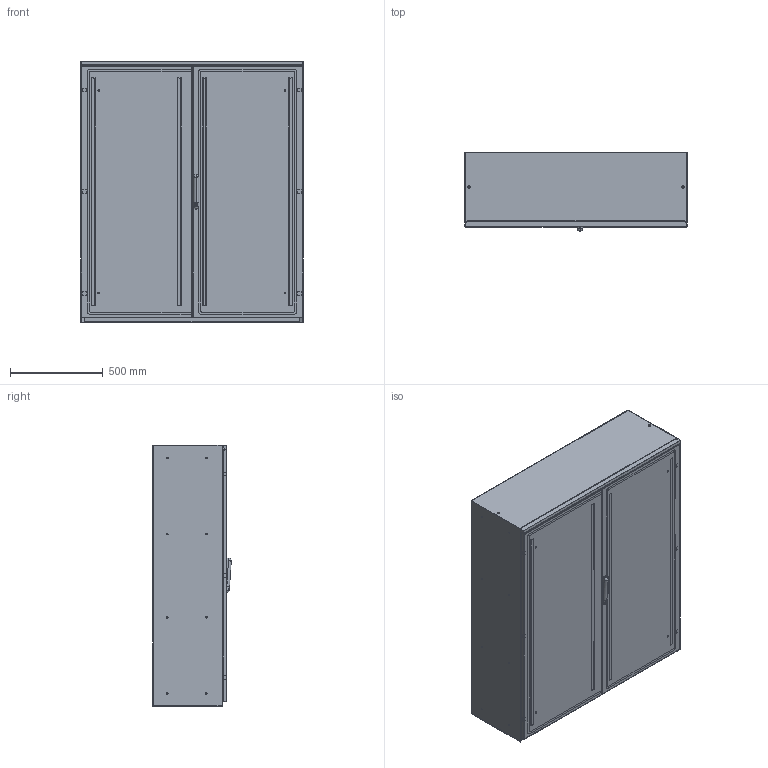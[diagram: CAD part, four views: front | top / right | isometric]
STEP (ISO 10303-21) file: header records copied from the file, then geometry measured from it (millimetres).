
FILE_DESCRIPTION (( 'STEP AP203' ), '1' );
FILE_NAME ('ECOMP121440.STEP', '2023-09-25T14:13:04', ( '' ), ( '' ), 'SwSTEP 2.0', 'SolidWorks 2022', '' );
FILE_SCHEMA (( 'CONFIG_CONTROL_DESIGN' ));
Length unit declared in the file: millimetre
Products named in the file (11): AR_ECOMP_maniglia; AR_ECOMP_struttura_1200x1400x0400; AR_ECOMP_tegolino_0600x0100; AR_ECOMP_assieme_maniglia; AR_ECOMP_Porta_IB_2.0_1200x1400_ANT; AR_ECOMP_piastra_interna_1200x1400; AR_ECOMP_tegolino_0600x0050; AR_ECOMP_Porta_CB_2.0_1200x1400_ANT_DX; ECOMP121440; AR_ECOMP_inserto_maniglia_Doppia_aletta; AR_ECOMP_montaggio_porta_IB_2.0_1200x1400_ANT_DX
Assembly tree (14 placements, depth 4):
  ECOMP121440
    AR_ECOMP_struttura_1200x1400x0400
    AR_ECOMP_montaggio_porta_IB_2.0_1200x1400_ANT_DX
      AR_ECOMP_Porta_IB_2.0_1200x1400_ANT
      AR_ECOMP_assieme_maniglia
        AR_ECOMP_maniglia
        AR_ECOMP_inserto_maniglia_Doppia_aletta
    AR_ECOMP_Porta_CB_2.0_1200x1400_ANT_DX
    AR_ECOMP_piastra_interna_1200x1400
    AR_ECOMP_tegolino_0600x0050  x2
    AR_ECOMP_tegolino_0600x0100  x4
Bounding box: 1200 x 423.98 x 1411.48 mm (x, y, z)
Volume: 13733670.1 mm3; surface area: 16372008.7 mm2
Topology: 12 solids, 12 shells, 1840 faces, 4771 edges, 3022 vertices
Faces by surface type: plane 938, cylinder 853, torus 16, bspline 15, sphere 14, cone 4
Entity records: 52747 total; most frequent: CARTESIAN_POINT 10342, DIRECTION 8830, ORIENTED_EDGE 8330, EDGE_CURVE 4165, AXIS2_PLACEMENT_3D 3175, VERTEX_POINT 2702, LINE 2480, VECTOR 2480
